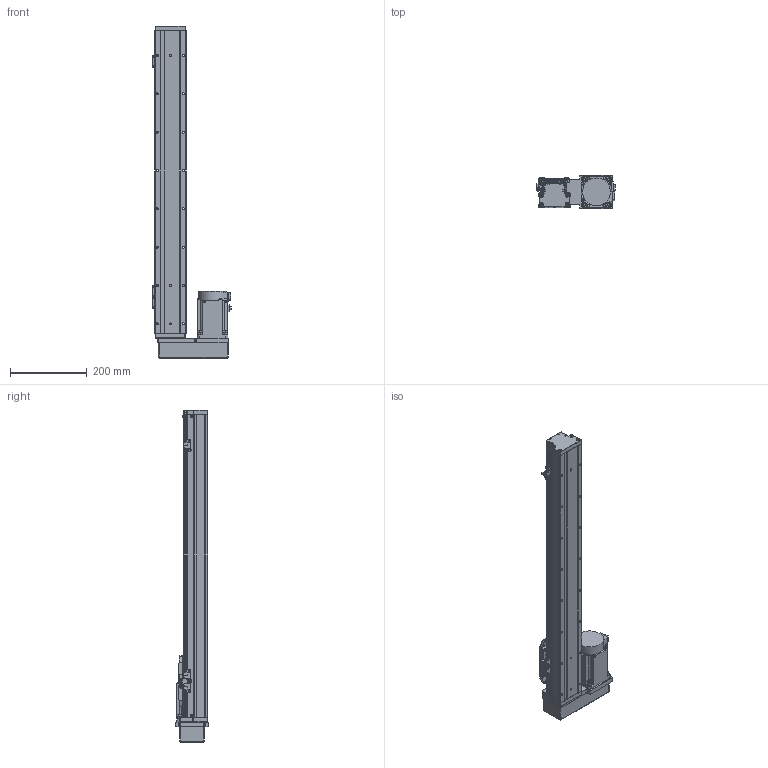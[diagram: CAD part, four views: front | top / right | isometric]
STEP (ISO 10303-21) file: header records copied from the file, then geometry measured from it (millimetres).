
FILE_DESCRIPTION (( 'STEP AP203' ), '1' );
FILE_NAME ('GTH8-600-BR-M75-C4.step', '2023-02-14T02:34:13', ( '微软用户' ), ( '微软中国' ), 'SwSTEP 2.0', 'SolidWorks 2020', '' );
FILE_SCHEMA (( 'CONFIG_CONTROL_DESIGN' ));
Length unit declared in the file: millimetre
Products named in the file (18): GBT 70.1-M3℅6; CTHA86-015-3_CTHA86-015-4; GTH80-003; GBT 70.1-M4×16; CTHA86-035; GTH80-004; GTH80-028; hg-kn73j_-s100; GTH80-006; GTH50-024; GTH8-600-BR-M75-C4; GTH80-013; GTH50-023; GBT 70.3-M3℅6; GBT96.1-2002 3×0.8; GTH80-022; BTH-M3X5X6; GTH80-001_600
Assembly tree (57 placements, depth 2):
  GTH8-600-BR-M75-C4
    GTH80-001_600
    GTH80-003
    GTH80-004
    GTH80-006
    GTH80-013
    GBT 70.3-M3℅6  x4
    GTH80-022
    GBT 70.1-M3℅6  x14
    GBT 70.1-M4×16  x8
    GTH80-028  x2
    GTH50-024  x3
    GTH50-023  x3
    GBT96.1-2002 3×0.8  x6
    BTH-M3X5X6  x8
    CTHA86-015-3_CTHA86-015-4
    CTHA86-035
    hg-kn73j_-s100
Bounding box: 204.7 x 87 x 866 mm (x, y, z)
Volume: 4967013.1 mm3; surface area: 505443.7 mm2
Topology: 59 solids, 59 shells, 2195 faces, 5094 edges, 3120 vertices
Faces by surface type: plane 1153, cylinder 627, cone 243, torus 158, sphere 12, bspline 2
Entity records: 39588 total; most frequent: CARTESIAN_POINT 6647, DIRECTION 6529, ORIENTED_EDGE 5998, EDGE_CURVE 2999, AXIS2_PLACEMENT_3D 2302, VECTOR 1925, LINE 1925, VERTEX_POINT 1895
